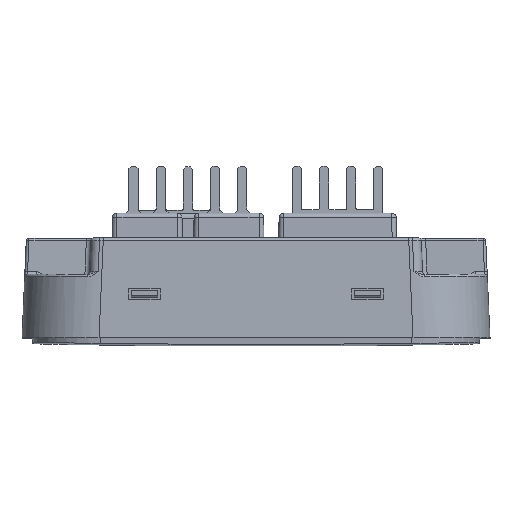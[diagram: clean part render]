
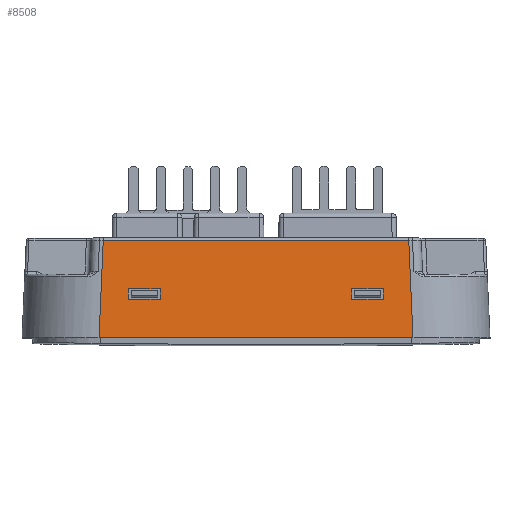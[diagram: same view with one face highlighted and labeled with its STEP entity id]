
A CAD part, top view. The second image highlights one B-rep face of the part: STEP entity #8508.
In plain terms, the highlighted planar face has unit normal (0, 0.044, 0.999).
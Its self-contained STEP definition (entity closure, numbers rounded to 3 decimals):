
#90 = FACE_BOUND ( 'NONE', #12754, .T. ) ;
#130 = VERTEX_POINT ( 'NONE', #6451 ) ;
#285 = DIRECTION ( 'NONE',  ( 0., 0.044, 0.999 ) ) ;
#483 = DIRECTION ( 'NONE',  ( 0., -0.999, 0.044 ) ) ;
#598 = CARTESIAN_POINT ( 'NONE',  ( 11.349, -2.056, 20.215 ) ) ;
#937 = DIRECTION ( 'NONE',  ( 0., 0.999, -0.044 ) ) ;
#1250 = VERTEX_POINT ( 'NONE', #31069 ) ;
#1751 = DIRECTION ( 'NONE',  ( -0.044, -0.998, 0.044 ) ) ;
#2087 = VECTOR ( 'NONE', #937, 1000. ) ;
#2492 = CARTESIAN_POINT ( 'NONE',  ( -14.059, -0.906, 20.164 ) ) ;
#2751 = EDGE_CURVE ( 'NONE', #15469, #1250, #20815, .T. ) ;
#2761 = EDGE_CURVE ( 'NONE', #31902, #15410, #23330, .T. ) ;
#2842 = VERTEX_POINT ( 'NONE', #18285 ) ;
#2892 = CARTESIAN_POINT ( 'NONE',  ( -17.308, -6.3, 20.4 ) ) ;
#3358 = EDGE_CURVE ( 'NONE', #32237, #5378, #15815, .T. ) ;
#3674 = VECTOR ( 'NONE', #9322, 1000. ) ;
#5257 = CARTESIAN_POINT ( 'NONE',  ( -11.349, -0.906, 20.164 ) ) ;
#5378 = VERTEX_POINT ( 'NONE', #34438 ) ;
#5497 = CARTESIAN_POINT ( 'NONE',  ( -10.559, -2.056, 20.215 ) ) ;
#5622 = DIRECTION ( 'NONE',  ( 0.044, -0.998, 0.044 ) ) ;
#5661 = LINE ( 'NONE', #21655, #28263 ) ;
#6451 = CARTESIAN_POINT ( 'NONE',  ( 14.044, -0.906, 20.164 ) ) ;
#6811 = CARTESIAN_POINT ( 'NONE',  ( -10.559, -6.3, 20.4 ) ) ;
#7546 = EDGE_LOOP ( 'NONE', ( #8737, #30511, #21926, #9294 ) ) ;
#8231 = VECTOR ( 'NONE', #30013, 1000. ) ;
#8508 = ADVANCED_FACE ( 'NONE', ( #30398, #17124, #90 ), #25050, .T. ) ;
#8737 = ORIENTED_EDGE ( 'NONE', *, *, #8964, .T. ) ;
#8964 = EDGE_CURVE ( 'NONE', #2842, #31902, #17087, .T. ) ;
#9294 = ORIENTED_EDGE ( 'NONE', *, *, #24941, .T. ) ;
#9322 = DIRECTION ( 'NONE',  ( 0., -0.999, 0.044 ) ) ;
#9549 = CARTESIAN_POINT ( 'NONE',  ( 14.849, -0.906, 20.164 ) ) ;
#9644 = LINE ( 'NONE', #15715, #34060 ) ;
#9680 = CARTESIAN_POINT ( 'NONE',  ( 10.544, -6.3, 20.4 ) ) ;
#10439 = VERTEX_POINT ( 'NONE', #2892 ) ;
#11012 = DIRECTION ( 'NONE',  ( 1., 0., 0. ) ) ;
#12427 = LINE ( 'NONE', #35016, #17400 ) ;
#12662 = EDGE_CURVE ( 'NONE', #1250, #10439, #9644, .T. ) ;
#12754 = EDGE_LOOP ( 'NONE', ( #33150, #25733, #19003, #25177 ) ) ;
#13122 = DIRECTION ( 'NONE',  ( -1., 0., 0. ) ) ;
#13280 = CARTESIAN_POINT ( 'NONE',  ( 0., -6.3, 20.4 ) ) ;
#13284 = CARTESIAN_POINT ( 'NONE',  ( -14.849, -2.056, 20.215 ) ) ;
#13336 = EDGE_CURVE ( 'NONE', #16911, #32237, #20657, .T. ) ;
#13337 = ORIENTED_EDGE ( 'NONE', *, *, #12662, .T. ) ;
#15249 = ORIENTED_EDGE ( 'NONE', *, *, #2751, .T. ) ;
#15410 = VERTEX_POINT ( 'NONE', #21664 ) ;
#15469 = VERTEX_POINT ( 'NONE', #33984 ) ;
#15715 = CARTESIAN_POINT ( 'NONE',  ( -16.891, 3.259, 19.983 ) ) ;
#15815 = LINE ( 'NONE', #13284, #34911 ) ;
#16911 = VERTEX_POINT ( 'NONE', #28569 ) ;
#17066 = EDGE_CURVE ( 'NONE', #10439, #26790, #32520, .T. ) ;
#17087 = LINE ( 'NONE', #598, #28382 ) ;
#17124 = FACE_BOUND ( 'NONE', #7546, .T. ) ;
#17400 = VECTOR ( 'NONE', #27479, 1000. ) ;
#17825 = ORIENTED_EDGE ( 'NONE', *, *, #26231, .F. ) ;
#18285 = CARTESIAN_POINT ( 'NONE',  ( 14.044, -2.056, 20.215 ) ) ;
#19003 = ORIENTED_EDGE ( 'NONE', *, *, #13336, .T. ) ;
#19056 = DIRECTION ( 'NONE',  ( -1., 0., 0. ) ) ;
#19514 = CARTESIAN_POINT ( 'NONE',  ( 17.308, -6.3, 20.4 ) ) ;
#20657 = LINE ( 'NONE', #6811, #3674 ) ;
#20815 = LINE ( 'NONE', #25499, #34747 ) ;
#20960 = AXIS2_PLACEMENT_3D ( 'NONE', #30235, #285, #11012 ) ;
#21655 = CARTESIAN_POINT ( 'NONE',  ( 14.044, -6.3, 20.4 ) ) ;
#21664 = CARTESIAN_POINT ( 'NONE',  ( 10.544, -0.906, 20.164 ) ) ;
#21788 = LINE ( 'NONE', #30206, #29506 ) ;
#21926 = ORIENTED_EDGE ( 'NONE', *, *, #26304, .T. ) ;
#22083 = VECTOR ( 'NONE', #33940, 1000. ) ;
#22692 = LINE ( 'NONE', #9549, #22083 ) ;
#23330 = LINE ( 'NONE', #9680, #2087 ) ;
#24392 = CARTESIAN_POINT ( 'NONE',  ( 10.544, -2.056, 20.215 ) ) ;
#24941 = EDGE_CURVE ( 'NONE', #130, #2842, #5661, .T. ) ;
#25050 = PLANE ( 'NONE',  #20960 ) ;
#25177 = ORIENTED_EDGE ( 'NONE', *, *, #3358, .T. ) ;
#25188 = EDGE_CURVE ( 'NONE', #31926, #16911, #27327, .T. ) ;
#25499 = CARTESIAN_POINT ( 'NONE',  ( 0., 4.413, 19.932 ) ) ;
#25733 = ORIENTED_EDGE ( 'NONE', *, *, #25188, .T. ) ;
#25837 = DIRECTION ( 'NONE',  ( -1., 0., 0. ) ) ;
#26231 = EDGE_CURVE ( 'NONE', #15469, #26790, #21788, .T. ) ;
#26304 = EDGE_CURVE ( 'NONE', #15410, #130, #22692, .T. ) ;
#26790 = VERTEX_POINT ( 'NONE', #19514 ) ;
#27327 = LINE ( 'NONE', #5257, #8231 ) ;
#27479 = DIRECTION ( 'NONE',  ( 0., 0.999, -0.044 ) ) ;
#28263 = VECTOR ( 'NONE', #483, 1000. ) ;
#28382 = VECTOR ( 'NONE', #19056, 1000. ) ;
#28569 = CARTESIAN_POINT ( 'NONE',  ( -10.559, -0.906, 20.164 ) ) ;
#29085 = EDGE_CURVE ( 'NONE', #5378, #31926, #12427, .T. ) ;
#29506 = VECTOR ( 'NONE', #5622, 1000. ) ;
#30013 = DIRECTION ( 'NONE',  ( 1., 0., 0. ) ) ;
#30206 = CARTESIAN_POINT ( 'NONE',  ( 17.285, -5.782, 20.377 ) ) ;
#30235 = CARTESIAN_POINT ( 'NONE',  ( 0., -6.3, 20.4 ) ) ;
#30340 = VECTOR ( 'NONE', #35188, 1000. ) ;
#30398 = FACE_OUTER_BOUND ( 'NONE', #32668, .T. ) ;
#30511 = ORIENTED_EDGE ( 'NONE', *, *, #2761, .T. ) ;
#31069 = CARTESIAN_POINT ( 'NONE',  ( -16.84, 4.413, 19.932 ) ) ;
#31902 = VERTEX_POINT ( 'NONE', #24392 ) ;
#31926 = VERTEX_POINT ( 'NONE', #2492 ) ;
#32237 = VERTEX_POINT ( 'NONE', #5497 ) ;
#32520 = LINE ( 'NONE', #13280, #30340 ) ;
#32668 = EDGE_LOOP ( 'NONE', ( #17825, #15249, #13337, #33396 ) ) ;
#33150 = ORIENTED_EDGE ( 'NONE', *, *, #29085, .T. ) ;
#33396 = ORIENTED_EDGE ( 'NONE', *, *, #17066, .T. ) ;
#33940 = DIRECTION ( 'NONE',  ( 1., 0., 0. ) ) ;
#33984 = CARTESIAN_POINT ( 'NONE',  ( 16.84, 4.413, 19.932 ) ) ;
#34060 = VECTOR ( 'NONE', #1751, 1000. ) ;
#34438 = CARTESIAN_POINT ( 'NONE',  ( -14.059, -2.056, 20.215 ) ) ;
#34747 = VECTOR ( 'NONE', #25837, 1000. ) ;
#34911 = VECTOR ( 'NONE', #13122, 1000. ) ;
#35016 = CARTESIAN_POINT ( 'NONE',  ( -14.059, -6.3, 20.4 ) ) ;
#35188 = DIRECTION ( 'NONE',  ( 1., 0., 0. ) ) ;
